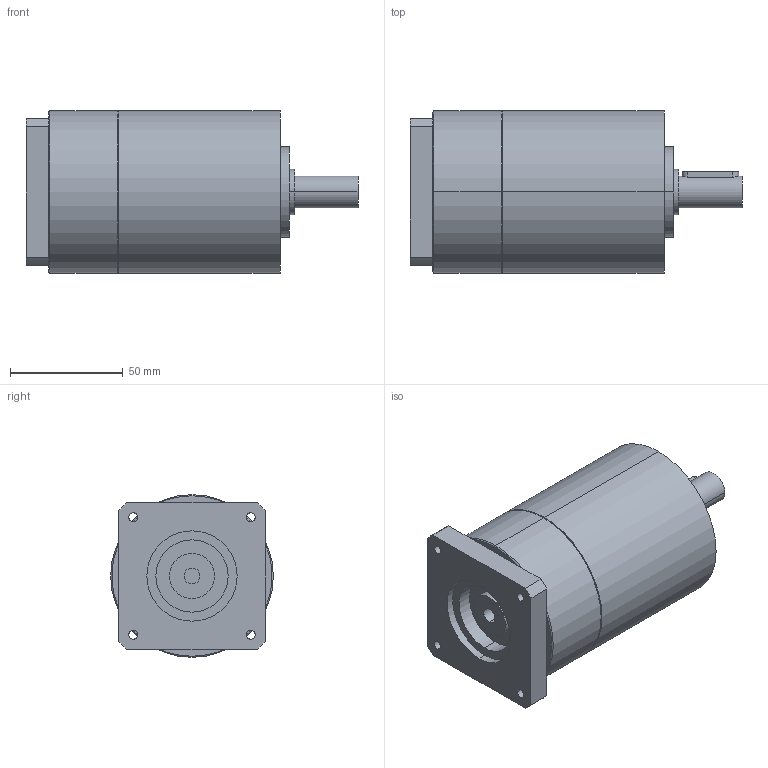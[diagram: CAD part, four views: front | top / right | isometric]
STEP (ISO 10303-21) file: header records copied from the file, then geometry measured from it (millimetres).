
FILE_DESCRIPTION(('CoCreate Modeling STEP Export'),'2;1');
FILE_NAME('GPT75_ig-9-12-16-20-25-28-35-40-50-70-100_14_B14T_7_P34.stp','2014-08-27T13:23:41',(''),(''),'CoCreate Modeling STEP processor for AP214 (Solid Model)','CoCreate Modeling 16.00C 25-Feb-2009 (C) Parametric Technology GmbH','');
FILE_SCHEMA(('AUTOMOTIVE_DESIGN { 1 0 10303 214 1 1 1 1 }'));
Length unit declared in the file: millimetre
Products named in the file (2): GPT75_ig-9-12-16-20-25-28-35-40-50-70-100_14_B14T_7_P34
Assembly tree (1 placements, depth 2):
  GPT75_ig-9-12-16-20-25-28-35-40-50-70-100_14_B14T_7_P34
    GPT75_ig-9-12-16-20-25-28-35-40-50-70-100_14_B14T_7_P34
Bounding box: 147 x 72 x 72 mm (x, y, z)
Volume: 458373.1 mm3; surface area: 40149 mm2
Topology: 1 solids, 1 shells, 80 faces, 198 edges, 129 vertices
Faces by surface type: cylinder 42, plane 34, cone 4
Entity records: 2353 total; most frequent: CARTESIAN_POINT 689, ORIENTED_EDGE 396, DIRECTION 276, EDGE_CURVE 198, VERTEX_POINT 129, AXIS2_PLACEMENT_3D 104, EDGE_LOOP 97, FACE_OUTER_BOUND 80
